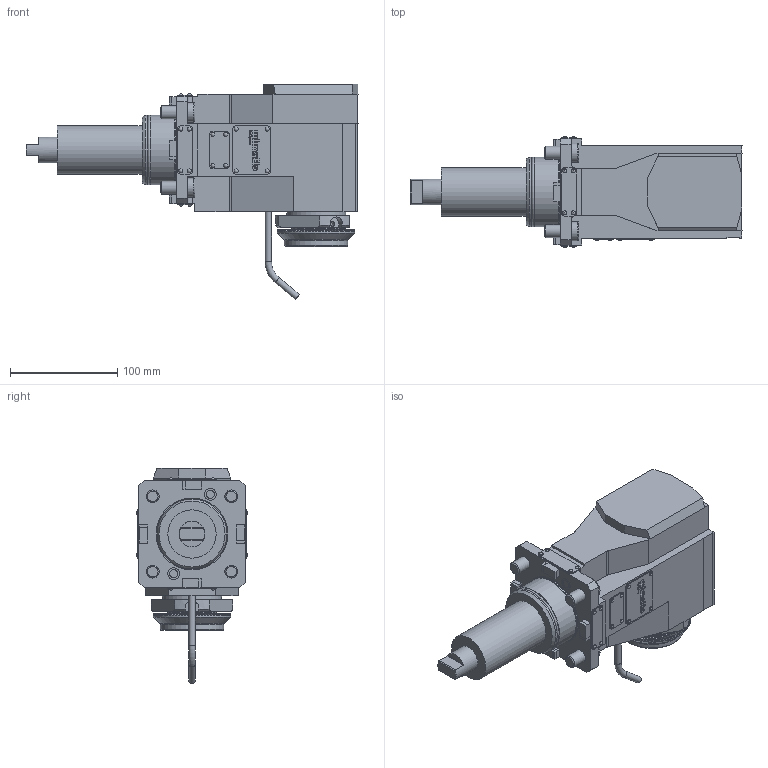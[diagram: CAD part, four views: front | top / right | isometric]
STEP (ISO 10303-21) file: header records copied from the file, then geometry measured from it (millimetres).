
FILE_DESCRIPTION(/* description */ (''),/* implementation_level */ '2;1');
FILE_NAME(/* name */ '196276-UNI',/* time_stamp */ '2022-08-01T15:10:45+02:00',/* author */ (''),/* organization */ (''),/* preprocessor_version */ 'ST-DEVELOPER v16.5',/* originating_system */ 'HiCAD 2017 2201.0 Build 268',/* authorisation */ '');
FILE_SCHEMA (('AUTOMOTIVE_DESIGN { 1 0 10303 214 1 1 1 1 }'));
Products named in the file (2): Root; Teil
Assembly tree (1 placements, depth 2):
  Root
    Teil
Bounding box: 309 x 103.6 x 200.17 mm (x, y, z)
Volume: 1746414.8 mm3; surface area: 155522.1 mm2
Topology: 1 solids, 27 shells, 1478 faces, 3799 edges, 2469 vertices
Faces by surface type: plane 801, cylinder 322, cone 195, torus 90, bspline 46, sphere 24
Full cylindrical faces by diameter (mm): 1.6 x1, 2 x8, 2.2 x8, 2.3 x16, 2.5 x1, 3.6 x1, 4 x6, 4.2 x2, 4.5 x1, 6 x7, 7.2 x3, 7.65 x2, 9.12 x6, 10 x1, 11.01 x2, 11.2 x3, 12 x5, 18 x5, 23.8 x1, 36 x1, 37 x1, 45 x1, 45.5 x1, 46 x1, 46.01 x1, 46.15 x1, 46.5 x1, 52.62 x1, 55 x1, 56 x1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
Entity records: 91341 total; most frequent: CARTESIAN_POINT 21106, DIRECTION 7406, PRESENTATION_STYLE_ASSIGNMENT 7131, COLOUR_RGB 7131, DRAUGHTING_PRE_DEFINED_CURVE_FONT 7130, CURVE_STYLE 7130, OVER_RIDING_STYLED_ITEM 7130, ORIENTED_EDGE 7130
